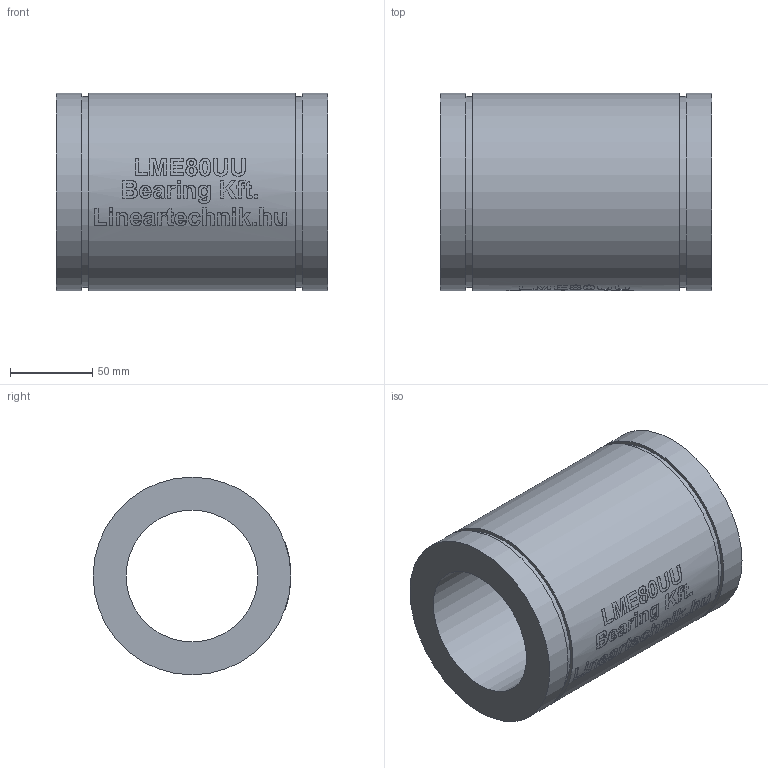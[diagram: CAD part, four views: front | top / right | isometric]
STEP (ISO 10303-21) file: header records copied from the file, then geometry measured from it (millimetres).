
FILE_DESCRIPTION(/* description */ (''),/* implementation_level */ '2;1');
FILE_NAME(/* name */ 'LME80UU',/* time_stamp */ '2019-05-17T10:33:52+02:00',/* author */ ('VĂ©gh MĂˇtĂ©'),/* organization */ ('Bearing Kft'),/* preprocessor_version */ 'ST-DEVELOPER v16.7',/* originating_system */ 'DEX',/* authorisation */ $);
FILE_SCHEMA (('AUTOMOTIVE_DESIGN {1 0 10303 214 3 1 1}'));
Length unit declared in the file: millimetre
Products named in the file (1): LME80UU
Bounding box: 165 x 120 x 120 mm (x, y, z)
Volume: 1030484.8 mm3; surface area: 119241.9 mm2
Topology: 1 solids, 1 shells, 311 faces, 771 edges, 514 vertices
Faces by surface type: plane 163, bspline 94, cylinder 54
Full cylindrical faces by diameter (mm): 80 x1, 116 x2, 120 x3
Entity records: 27127 total; most frequent: CARTESIAN_POINT 20225, ORIENTED_EDGE 1520, DIRECTION 1153, EDGE_CURVE 760, VERTEX_POINT 514, LINE 421, VECTOR 421, EDGE_LOOP 376
